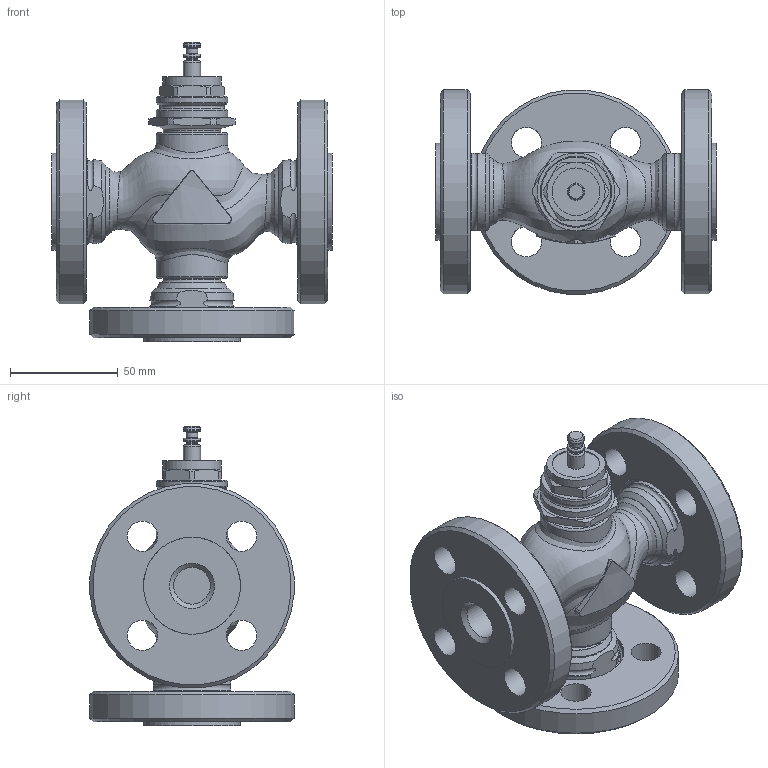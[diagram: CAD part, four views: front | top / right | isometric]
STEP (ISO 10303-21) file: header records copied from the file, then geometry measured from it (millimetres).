
FILE_DESCRIPTION(/* description */ (''),/* implementation_level */ '2;1');
FILE_NAME(/* name */ 'rv111s_dn15_3_F.stp',/* time_stamp */ '2012-02-28T10:23:48+01:00',/* author */ ('KLIMES'),/* organization */ ('LDM'),/* preprocessor_version */ 'ST-DEVELOPER v11',/* originating_system */ 'SIEMENS PLM Software NX 7.0',/* authorisation */ '');
FILE_SCHEMA (('CONFIG_CONTROL_DESIGN'));
Length unit declared in the file: millimetre
Products named in the file (1): klimEAFB3d2i
Bounding box: 130 x 94.64 x 139.05 mm (x, y, z)
Volume: 444738.3 mm3; surface area: 90994.1 mm2
Topology: 4 solids, 4 shells, 236 faces, 546 edges, 346 vertices
Faces by surface type: cylinder 71, plane 64, cone 57, bspline 22, torus 22
Full cylindrical faces by diameter (mm): 5.3 x1, 5.5 x1, 8 x3, 14 x12, 17 x3, 22 x1, 26.5 x2, 27 x1, 30.291 x3, 33 x4, 33.249 x3, 33.5 x3, 45 x3, 95 x3
Entity records: 11772 total; most frequent: CARTESIAN_POINT 7058, DIRECTION 950, ORIENTED_EDGE 806, AXIS2_PLACEMENT_3D 442, EDGE_CURVE 403, EDGE_LOOP 395, VERTEX_POINT 304, FACE_BOUND 292
